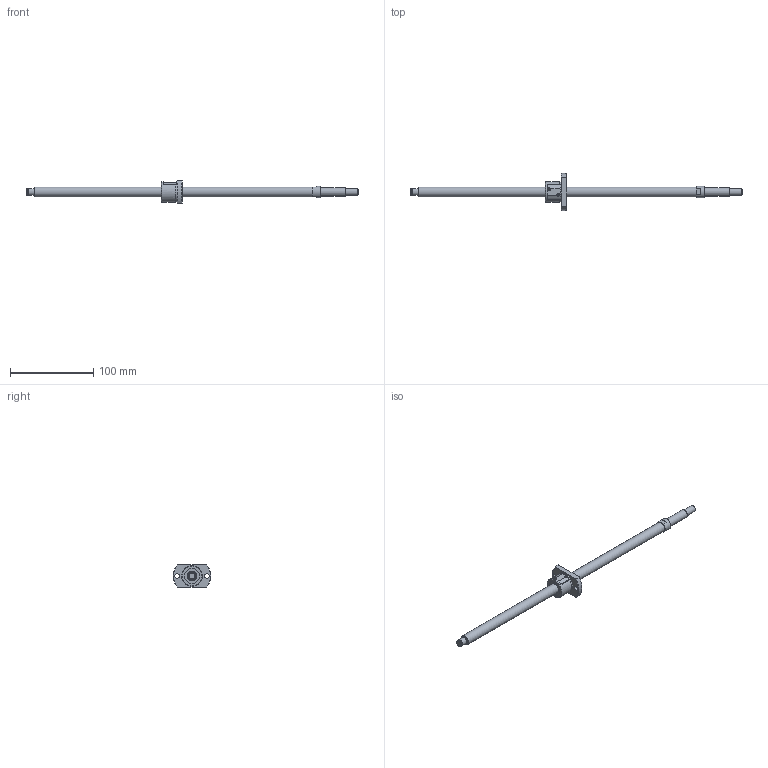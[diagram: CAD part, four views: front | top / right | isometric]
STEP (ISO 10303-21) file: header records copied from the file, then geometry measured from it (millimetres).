
FILE_DESCRIPTION(/* description */ ('STEP AP214'),/* implementation_level */ '2;1');
FILE_NAME(/* name */ 'SG1202-331R400C5B0X(153)',/* time_stamp */ '2026-07-24T15:20:47+02:00',/* author */ ('License CC BY-ND 4.0'),/* organization */ ('CADENAS'),/* preprocessor_version */ 'ST-DEVELOPER v20',/* originating_system */ 'PARTsolutions',/* authorisation */ ' ');
FILE_SCHEMA (('AUTOMOTIVE_DESIGN {1 0 10303 214 3 1 1}'));
Length unit declared in the file: millimetre
Products named in the file (3): SG1202-331R400C5B0X(153); SG1202-331R400C5B_shaft; SG1202 C5_nut
Assembly tree (2 placements, depth 2):
  SG1202-331R400C5B0X(153)
    SG1202-331R400C5B_shaft
    SG1202 C5_nut
Bounding box: 400 x 45 x 27 mm (x, y, z)
Volume: 55430.3 mm3; surface area: 20331.7 mm2
Topology: 2 solids, 2 shells, 79 faces, 188 edges, 123 vertices
Faces by surface type: plane 38, cylinder 26, cone 14, torus 1
Full cylindrical faces by diameter (mm): 5.5 x2, 7.6 x1, 8 x3, 10 x1, 12 x2, 14 x1, 18 x2, 24.5 x1, 25 x1
Entity records: 2197 total; most frequent: CARTESIAN_POINT 408, DIRECTION 374, ORIENTED_EDGE 306, AXIS2_PLACEMENT_3D 157, EDGE_CURVE 153, EDGE_LOOP 120, FACE_BOUND 120, VERTEX_POINT 113
